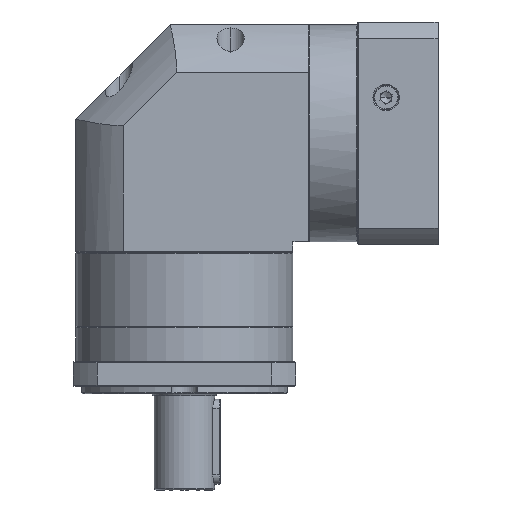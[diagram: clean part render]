
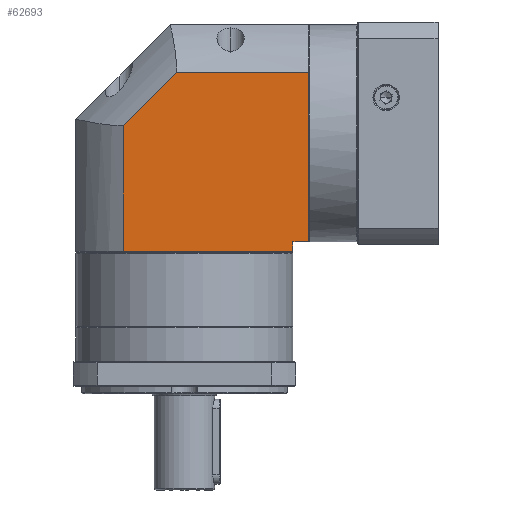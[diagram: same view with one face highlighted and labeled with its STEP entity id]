
A CAD part, front view. The second image highlights one B-rep face of the part: STEP entity #62693.
In plain terms, the highlighted planar face has unit normal (0, -1, 0).
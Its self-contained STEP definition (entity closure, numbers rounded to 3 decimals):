
#2625 = VECTOR ( 'NONE', #22792, 1000. ) ;
#2903 = EDGE_CURVE ( 'NONE', #65718, #66545, #64349, .T. ) ;
#4599 = CARTESIAN_POINT ( 'NONE',  ( -10.291, -5.231, -61.854 ) ) ;
#5183 = CARTESIAN_POINT ( 'NONE',  ( 14.809, -5.231, -61.854 ) ) ;
#6472 = LINE ( 'NONE', #84484, #58142 ) ;
#11327 = CARTESIAN_POINT ( 'NONE',  ( -10.291, -5.231, -55.354 ) ) ;
#14335 = FACE_OUTER_BOUND ( 'NONE', #117604, .T. ) ;
#14959 = DIRECTION ( 'NONE',  ( 0., 1., 0. ) ) ;
#22792 = DIRECTION ( 'NONE',  ( 0.707, 0., 0.707 ) ) ;
#26098 = ORIENTED_EDGE ( 'NONE', *, *, #2903, .F. ) ;
#27276 = VECTOR ( 'NONE', #88819, 1000. ) ;
#40001 = ORIENTED_EDGE ( 'NONE', *, *, #66705, .F. ) ;
#41543 = EDGE_CURVE ( 'NONE', #94367, #65718, #111670, .T. ) ;
#43027 = LINE ( 'NONE', #95288, #2625 ) ;
#44396 = LINE ( 'NONE', #106478, #96274 ) ;
#45950 = VERTEX_POINT ( 'NONE', #81018 ) ;
#48038 = ORIENTED_EDGE ( 'NONE', *, *, #49724, .F. ) ;
#49724 = EDGE_CURVE ( 'NONE', #86383, #63402, #43027, .T. ) ;
#50982 = VERTEX_POINT ( 'NONE', #115757 ) ;
#56169 = AXIS2_PLACEMENT_3D ( 'NONE', #4599, #14959, #129118 ) ;
#58142 = VECTOR ( 'NONE', #62685, 1000. ) ;
#61531 = CARTESIAN_POINT ( 'NONE',  ( 104.709, -5.231, -55.354 ) ) ;
#62016 = DIRECTION ( 'NONE',  ( 0., 0., -1. ) ) ;
#62685 = DIRECTION ( 'NONE',  ( 1., 0., 0. ) ) ;
#62693 = ADVANCED_FACE ( 'NONE', ( #14335 ), #98300, .F. ) ;
#63402 = VERTEX_POINT ( 'NONE', #74552 ) ;
#64349 = LINE ( 'NONE', #84233, #83749 ) ;
#65718 = VERTEX_POINT ( 'NONE', #101372 ) ;
#66545 = VERTEX_POINT ( 'NONE', #61531 ) ;
#66705 = EDGE_CURVE ( 'NONE', #50982, #94367, #44396, .T. ) ;
#68044 = CARTESIAN_POINT ( 'NONE',  ( -10.291, -5.231, -50.354 ) ) ;
#73881 = ORIENTED_EDGE ( 'NONE', *, *, #41543, .F. ) ;
#74552 = CARTESIAN_POINT ( 'NONE',  ( 43.147, -5.231, 39.546 ) ) ;
#77405 = EDGE_CURVE ( 'NONE', #63402, #50982, #6472, .T. ) ;
#78417 = DIRECTION ( 'NONE',  ( -1., 0., 0. ) ) ;
#80631 = VECTOR ( 'NONE', #92843, 1000. ) ;
#81018 = CARTESIAN_POINT ( 'NONE',  ( 14.809, -5.231, -55.354 ) ) ;
#83749 = VECTOR ( 'NONE', #62016, 1000. ) ;
#84233 = CARTESIAN_POINT ( 'NONE',  ( 104.709, -5.231, -61.854 ) ) ;
#84484 = CARTESIAN_POINT ( 'NONE',  ( -10.291, -5.231, 39.546 ) ) ;
#85236 = ORIENTED_EDGE ( 'NONE', *, *, #77405, .F. ) ;
#86383 = VERTEX_POINT ( 'NONE', #126809 ) ;
#87088 = LINE ( 'NONE', #5183, #27276 ) ;
#88819 = DIRECTION ( 'NONE',  ( 0., 0., 1. ) ) ;
#92843 = DIRECTION ( 'NONE',  ( -1., 0., 0. ) ) ;
#94367 = VERTEX_POINT ( 'NONE', #105799 ) ;
#95288 = CARTESIAN_POINT ( 'NONE',  ( 14.809, -5.231, 11.208 ) ) ;
#96274 = VECTOR ( 'NONE', #116039, 1000. ) ;
#98300 = PLANE ( 'NONE',  #56169 ) ;
#101372 = CARTESIAN_POINT ( 'NONE',  ( 104.709, -5.231, -50.354 ) ) ;
#105799 = CARTESIAN_POINT ( 'NONE',  ( 113.109, -5.231, -50.354 ) ) ;
#106478 = CARTESIAN_POINT ( 'NONE',  ( 113.109, -5.231, -61.854 ) ) ;
#108367 = LINE ( 'NONE', #11327, #80631 ) ;
#111670 = LINE ( 'NONE', #68044, #132754 ) ;
#112375 = EDGE_CURVE ( 'NONE', #45950, #86383, #87088, .T. ) ;
#115757 = CARTESIAN_POINT ( 'NONE',  ( 113.109, -5.231, 39.546 ) ) ;
#116039 = DIRECTION ( 'NONE',  ( 0., 0., -1. ) ) ;
#117604 = EDGE_LOOP ( 'NONE', ( #26098, #73881, #40001, #85236, #48038, #131989, #118375 ) ) ;
#118375 = ORIENTED_EDGE ( 'NONE', *, *, #130193, .F. ) ;
#126809 = CARTESIAN_POINT ( 'NONE',  ( 14.809, -5.231, 11.208 ) ) ;
#129118 = DIRECTION ( 'NONE',  ( 1., 0., 0. ) ) ;
#130193 = EDGE_CURVE ( 'NONE', #66545, #45950, #108367, .T. ) ;
#131989 = ORIENTED_EDGE ( 'NONE', *, *, #112375, .F. ) ;
#132754 = VECTOR ( 'NONE', #78417, 1000. ) ;
